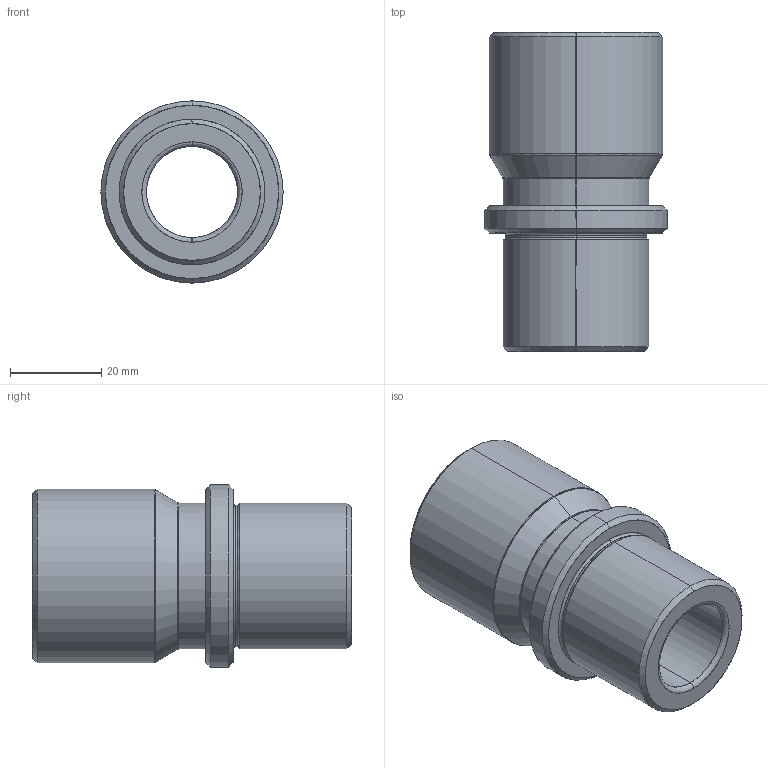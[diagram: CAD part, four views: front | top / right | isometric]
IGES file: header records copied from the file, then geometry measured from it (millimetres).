
Start section: SolidWorks IGES file using analytic representation for surfaces
Global section: file name: C:\Documents and Settings\kalite-mail\Desktop\IGS\D32\D32_20X26.IGS; native system: SolidWorks 2008; preprocessor: SolidWorks 2008; author: kalite-mail; date: 080707.165733; units: millimetre
Bounding box: 40 x 70 x 40 mm (x, y, z)
Surface area: 14160.6 mm2 (no closed solid volume)
Topology: 0 solids, 0 shells, 38 faces, 584 edges, 584 vertices
Faces by surface type: revolution 22, bspline 16
